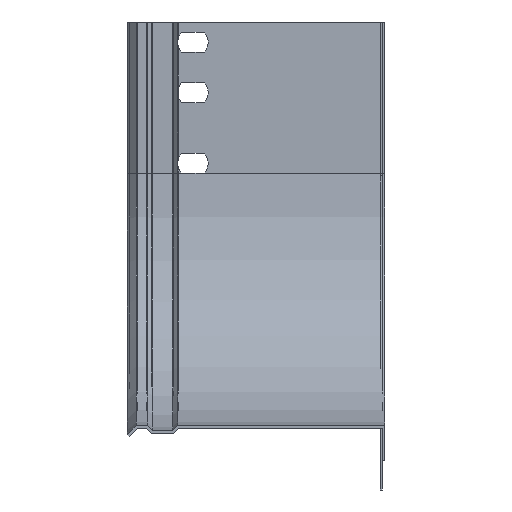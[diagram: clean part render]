
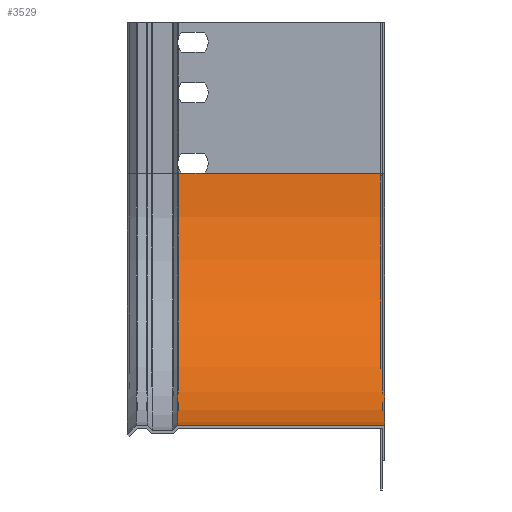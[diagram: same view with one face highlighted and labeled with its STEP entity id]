
A CAD part, left-side view. The second image highlights one B-rep face of the part: STEP entity #3529.
In plain terms, the highlighted cylindrical face has radius 100 mm (diameter 200 mm), a partial arc.
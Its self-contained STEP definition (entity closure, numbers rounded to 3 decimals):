
#30 = DIRECTION ( 'NONE',  ( 0., 0., -1. ) ) ;
#101 = EDGE_CURVE ( 'NONE', #102, #4684, #2526, .T. ) ;
#102 = VERTEX_POINT ( 'NONE', #913 ) ;
#110 = EDGE_CURVE ( 'NONE', #1916, #102, #3329, .T. ) ;
#270 = DIRECTION ( 'NONE',  ( 0., -1., 0. ) ) ;
#299 = CIRCLE ( 'NONE', #3223, 100. ) ;
#365 = DIRECTION ( 'NONE',  ( 0., 1., 0. ) ) ;
#369 = ORIENTED_EDGE ( 'NONE', *, *, #101, .F. ) ;
#446 = CARTESIAN_POINT ( 'NONE',  ( -160., 71.528, 60. ) ) ;
#462 = DIRECTION ( 'NONE',  ( 0., 1., 0. ) ) ;
#697 = EDGE_CURVE ( 'NONE', #2734, #4584, #299, .T. ) ;
#754 = LINE ( 'NONE', #1170, #3647 ) ;
#810 = LINE ( 'NONE', #3842, #2562 ) ;
#838 = DIRECTION ( 'NONE',  ( 0., 0., -1. ) ) ;
#853 = ORIENTED_EDGE ( 'NONE', *, *, #110, .F. ) ;
#913 = CARTESIAN_POINT ( 'NONE',  ( -60., 71.528, 160. ) ) ;
#1170 = CARTESIAN_POINT ( 'NONE',  ( -60., 0., 160. ) ) ;
#1173 = EDGE_CURVE ( 'NONE', #2332, #4584, #810, .T. ) ;
#1271 = CIRCLE ( 'NONE', #1927, 100. ) ;
#1285 = EDGE_CURVE ( 'NONE', #1916, #3613, #1271, .T. ) ;
#1316 = CARTESIAN_POINT ( 'NONE',  ( -60., 80.472, 160. ) ) ;
#1407 = CARTESIAN_POINT ( 'NONE',  ( -160., 80.472, 60. ) ) ;
#1428 = CARTESIAN_POINT ( 'NONE',  ( -160., 82., 60. ) ) ;
#1531 = VECTOR ( 'NONE', #365, 1000. ) ;
#1587 = DIRECTION ( 'NONE',  ( 0., 1., 0. ) ) ;
#1607 = VECTOR ( 'NONE', #4036, 1000. ) ;
#1608 = LINE ( 'NONE', #4641, #1531 ) ;
#1621 = DIRECTION ( 'NONE',  ( 0., -1., 0. ) ) ;
#1629 = EDGE_CURVE ( 'NONE', #4698, #2332, #2737, .T. ) ;
#1748 = EDGE_CURVE ( 'NONE', #3613, #4698, #1608, .T. ) ;
#1750 = CARTESIAN_POINT ( 'NONE',  ( -60., 0., 160. ) ) ;
#1816 = CARTESIAN_POINT ( 'NONE',  ( -60., 82., 160. ) ) ;
#1843 = CYLINDRICAL_SURFACE ( 'NONE', #2184, 100. ) ;
#1916 = VERTEX_POINT ( 'NONE', #1750 ) ;
#1927 = AXIS2_PLACEMENT_3D ( 'NONE', #3953, #1621, #838 ) ;
#2149 = CARTESIAN_POINT ( 'NONE',  ( -60., 0., 160. ) ) ;
#2184 = AXIS2_PLACEMENT_3D ( 'NONE', #4948, #270, #2543 ) ;
#2256 = DIRECTION ( 'NONE',  ( 0., -1., 0. ) ) ;
#2315 = CARTESIAN_POINT ( 'NONE',  ( -160., 80.472, 60. ) ) ;
#2332 = VERTEX_POINT ( 'NONE', #1407 ) ;
#2350 = CARTESIAN_POINT ( 'NONE',  ( -60., 80.472, 160. ) ) ;
#2402 = VECTOR ( 'NONE', #3226, 1000. ) ;
#2526 = LINE ( 'NONE', #1316, #1607 ) ;
#2543 = DIRECTION ( 'NONE',  ( 0., 0., -1. ) ) ;
#2558 = CARTESIAN_POINT ( 'NONE',  ( -160., 0., 60. ) ) ;
#2562 = VECTOR ( 'NONE', #3912, 1000. ) ;
#2668 = EDGE_LOOP ( 'NONE', ( #853, #3736, #4660, #3722, #3968, #3065, #3443, #369 ) ) ;
#2734 = VERTEX_POINT ( 'NONE', #1816 ) ;
#2737 = LINE ( 'NONE', #2315, #3800 ) ;
#2907 = EDGE_CURVE ( 'NONE', #4684, #2734, #754, .T. ) ;
#3065 = ORIENTED_EDGE ( 'NONE', *, *, #697, .F. ) ;
#3223 = AXIS2_PLACEMENT_3D ( 'NONE', #4634, #2256, #30 ) ;
#3226 = DIRECTION ( 'NONE',  ( 0., 1., 0. ) ) ;
#3329 = LINE ( 'NONE', #2149, #2402 ) ;
#3443 = ORIENTED_EDGE ( 'NONE', *, *, #2907, .F. ) ;
#3453 = FACE_OUTER_BOUND ( 'NONE', #2668, .T. ) ;
#3529 = ADVANCED_FACE ( 'NONE', ( #3453 ), #1843, .F. ) ;
#3613 = VERTEX_POINT ( 'NONE', #2558 ) ;
#3647 = VECTOR ( 'NONE', #1587, 1000. ) ;
#3722 = ORIENTED_EDGE ( 'NONE', *, *, #1629, .T. ) ;
#3736 = ORIENTED_EDGE ( 'NONE', *, *, #1285, .T. ) ;
#3800 = VECTOR ( 'NONE', #462, 1000. ) ;
#3842 = CARTESIAN_POINT ( 'NONE',  ( -160., 0., 60. ) ) ;
#3912 = DIRECTION ( 'NONE',  ( 0., 1., 0. ) ) ;
#3953 = CARTESIAN_POINT ( 'NONE',  ( -60., 0., 60. ) ) ;
#3968 = ORIENTED_EDGE ( 'NONE', *, *, #1173, .T. ) ;
#4036 = DIRECTION ( 'NONE',  ( 0., 1., 0. ) ) ;
#4584 = VERTEX_POINT ( 'NONE', #1428 ) ;
#4634 = CARTESIAN_POINT ( 'NONE',  ( -60., 82., 60. ) ) ;
#4641 = CARTESIAN_POINT ( 'NONE',  ( -160., 0., 60. ) ) ;
#4660 = ORIENTED_EDGE ( 'NONE', *, *, #1748, .T. ) ;
#4684 = VERTEX_POINT ( 'NONE', #2350 ) ;
#4698 = VERTEX_POINT ( 'NONE', #446 ) ;
#4948 = CARTESIAN_POINT ( 'NONE',  ( -60., 0., 60. ) ) ;
